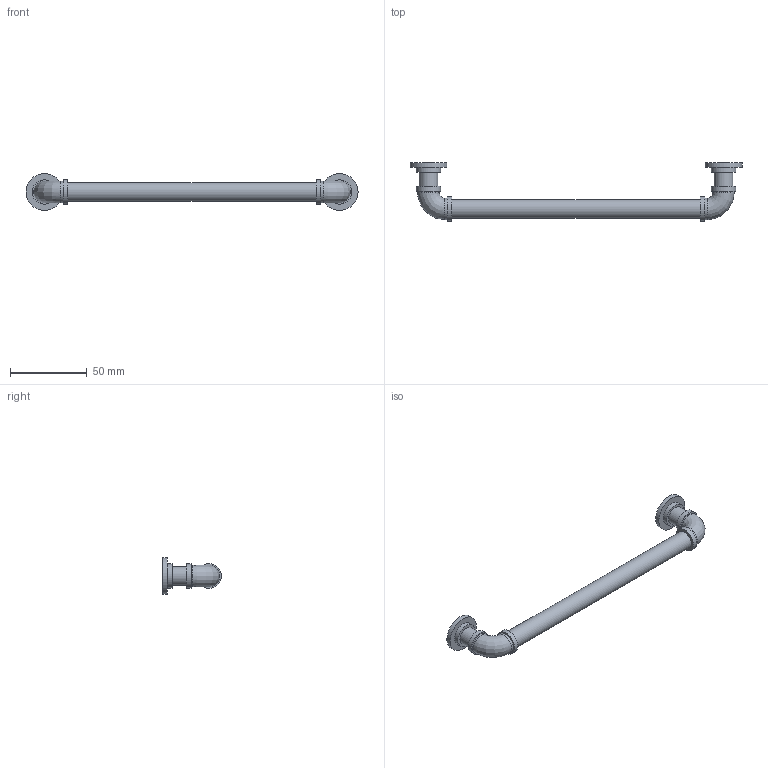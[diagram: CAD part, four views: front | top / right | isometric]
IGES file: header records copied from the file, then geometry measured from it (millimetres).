
Start section: Data from Parasolid IGES Translator 20.0.26, Copyright(c) 2006 Siemens P LM Software. All Rights Reserved.
Global section: file name: 9266564.igs; native system: By Siemens PLM Incorporated; preprocessor: XPlus GENERIC/IGES 20.0.26; author: Noname; organization: Noname; date: 20200630.121714; units: millimetre
Bounding box: 216 x 38 x 24 mm (x, y, z)
Surface area: 12117.8 mm2 (no closed solid volume)
Topology: 0 solids, 0 shells, 35 faces, 114 edges, 86 vertices
Faces by surface type: revolution 19, extrusion 16
